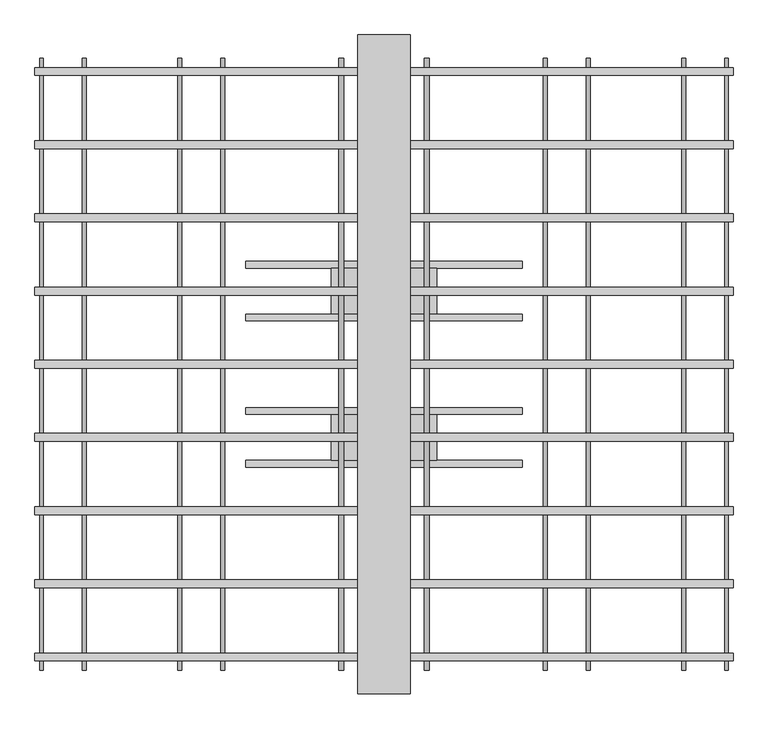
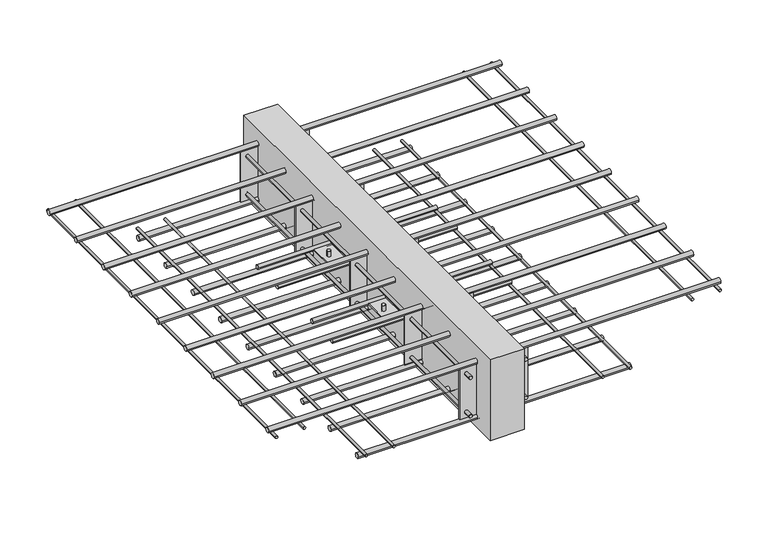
"""IFC4 building model written with IfcOpenShell, lengths in millimetres: fastener geometry, ACINOXplus_Typenreihe_K : KF+ S2."""

from ifc_helpers import new_model, si_unit, point, frame, frame_2d, origin, place, context, project, spatial, polyline, circle_curve, trimmed, segment, composite_curve, outline, extrude, source, transform, mapped, element, save
from ifc_brep_helpers import plane_surface, cylinder_surface, advanced_brep


def fastener_b173686f(model_context):
    return source(origin(), model_context, "Body", "SolidModel", [
        extrude(outline(composite_curve([segment(trimmed(circle_curve(frame_2d((-151.1111111, -104.5)), 5.0), [point((-156.1111111, -104.5))], [point((-146.1111111, -104.5))], False, "CARTESIAN"), True, "CONTINUOUS"), segment(trimmed(circle_curve(frame_2d((-151.1111111, -104.5)), 5.0), [point((-146.1111111, -104.5))], [point((-156.1111111, -104.5))], False, "CARTESIAN"), True, "CONTINUOUS")], self_intersect=False)), frame((-210.0, 0.0, 0.0), z_axis=(1.0, 0.0, 0.0), x_axis=(0.0, 1.0, 0.0)), (0.0, 0.0, 1.0), 420.0),
        extrude(outline(composite_curve([segment(trimmed(circle_curve(frame_2d((-71.1111111, -104.5)), 5.0), [point((-76.1111111, -104.5))], [point((-66.1111111, -104.5))], False, "CARTESIAN"), True, "CONTINUOUS"), segment(trimmed(circle_curve(frame_2d((-71.1111111, -104.5)), 5.0), [point((-66.1111111, -104.5))], [point((-76.1111111, -104.5))], False, "CARTESIAN"), True, "CONTINUOUS")], self_intersect=False)), frame((-210.0, 0.0, 0.0), z_axis=(1.0, 0.0, 0.0), x_axis=(0.0, 1.0, 0.0)), (0.0, 0.0, 1.0), 420.0),
        advanced_brep(
        [(-69.0, -111.1111111, -89.5), (-61.0, -111.1111111, -89.5), (61.0, -111.1111111, -89.5), (69.0, -111.1111111, -89.5), (-69.0, -111.1111111, -119.5), (-61.0, -111.1111111, -119.5), (61.0, -111.1111111, -119.5), (69.0, -111.1111111, -119.5), (-69.0, -111.1111111, -103.0), (-61.0, -111.1111111, -103.0), (-61.0, -111.1111111, -106.0), (-69.0, -111.1111111, -106.0), (61.0, -111.1111111, -103.0), (69.0, -111.1111111, -103.0), (69.0, -111.1111111, -106.0), (61.0, -111.1111111, -106.0), (80.0, -76.1111111, -103.0), (-80.0, -76.1111111, -103.0), (-80.0, -146.1111111, -103.0), (80.0, -146.1111111, -103.0), (80.0, -76.1111111, -106.0), (80.0, -146.1111111, -106.0), (-80.0, -146.1111111, -106.0), (-80.0, -76.1111111, -106.0)],
        [
            (0, 1, circle_curve(frame((-65.0, -111.1111111, -89.5), z_axis=(0.0, 0.0, 1.0), x_axis=(1.0, 0.0, 0.0)), 4.0)),
            (1, 0, circle_curve(frame((-65.0, -111.1111111, -89.5), z_axis=(0.0, 0.0, 1.0), x_axis=(1.0, 0.0, 0.0)), 4.0)),
            (2, 3, circle_curve(frame((65.0, -111.1111111, -89.5), z_axis=(0.0, 0.0, 1.0), x_axis=(1.0, 0.0, 0.0)), 4.0)),
            (3, 2, circle_curve(frame((65.0, -111.1111111, -89.5), z_axis=(0.0, 0.0, 1.0), x_axis=(1.0, 0.0, 0.0)), 4.0)),
            (4, 5, circle_curve(frame((-65.0, -111.1111111, -119.5), z_axis=(0.0, 0.0, -1.0), x_axis=(1.0, 0.0, 0.0)), 4.0)),
            (5, 4, circle_curve(frame((-65.0, -111.1111111, -119.5), z_axis=(0.0, 0.0, -1.0), x_axis=(1.0, 0.0, 0.0)), 4.0)),
            (6, 7, circle_curve(frame((65.0, -111.1111111, -119.5), z_axis=(0.0, 0.0, -1.0), x_axis=(1.0, 0.0, 0.0)), 4.0)),
            (7, 6, circle_curve(frame((65.0, -111.1111111, -119.5), z_axis=(0.0, 0.0, -1.0), x_axis=(1.0, 0.0, 0.0)), 4.0)),
            (0, 8),
            (8, 9, circle_curve(frame((-65.0, -111.1111111, -103.0), z_axis=(0.0, 0.0, 1.0), x_axis=(1.0, 0.0, 0.0)), 4.0)),
            (9, 1),
            (5, 10),
            (10, 11, circle_curve(frame((-65.0, -111.1111111, -106.0), z_axis=(0.0, 0.0, -1.0), x_axis=(1.0, 0.0, 0.0)), 4.0)),
            (11, 4),
            (9, 8, circle_curve(frame((-65.0, -111.1111111, -103.0), z_axis=(0.0, 0.0, 1.0), x_axis=(1.0, 0.0, 0.0)), 4.0)),
            (11, 10, circle_curve(frame((-65.0, -111.1111111, -106.0), z_axis=(0.0, 0.0, -1.0), x_axis=(1.0, 0.0, 0.0)), 4.0)),
            (2, 12),
            (12, 13, circle_curve(frame((65.0, -111.1111111, -103.0), z_axis=(0.0, 0.0, 1.0), x_axis=(1.0, 0.0, 0.0)), 4.0)),
            (13, 3),
            (7, 14),
            (14, 15, circle_curve(frame((65.0, -111.1111111, -106.0), z_axis=(0.0, 0.0, -1.0), x_axis=(1.0, 0.0, 0.0)), 4.0)),
            (15, 6),
            (13, 12, circle_curve(frame((65.0, -111.1111111, -103.0), z_axis=(0.0, 0.0, 1.0), x_axis=(1.0, 0.0, 0.0)), 4.0)),
            (15, 14, circle_curve(frame((65.0, -111.1111111, -106.0), z_axis=(0.0, 0.0, -1.0), x_axis=(1.0, 0.0, 0.0)), 4.0)),
            (16, 17),
            (17, 18),
            (18, 19),
            (19, 16),
            (20, 21),
            (21, 22),
            (22, 23),
            (23, 20),
            (16, 20),
            (23, 17),
            (22, 18),
            (21, 19),
        ],
        [
            plane_surface(frame((-61.0, -111.1111111, -89.5), z_axis=(0.0, 0.0, 1.0), x_axis=(0.0, 1.0, 0.0))),
            plane_surface(frame((-61.0, -111.1111111, -119.5), z_axis=(0.0, 0.0, -1.0), x_axis=(0.0, -1.0, 0.0))),
            cylinder_surface(frame((-65.0, -111.1111111, -119.5), z_axis=(0.0, 0.0, 1.0), x_axis=(1.0, 0.0, 0.0)), 4.0),
            cylinder_surface(frame((65.0, -111.1111111, -104.5), z_axis=(0.0, 0.0, 1.0), x_axis=(1.0, 0.0, 0.0)), 4.0),
            plane_surface(frame((-80.0, -76.1111111, -103.0), z_axis=(0.0, 0.0, 1.0), x_axis=(-1.0, 0.0, 0.0))),
            plane_surface(frame((-80.0, -76.1111111, -106.0), z_axis=(0.0, 0.0, -1.0), x_axis=(1.0, 0.0, 0.0))),
            plane_surface(frame((80.0, -76.1111111, -103.0), z_axis=(0.0, 1.0, 0.0), x_axis=(0.0, 0.0, -1.0))),
            plane_surface(frame((-80.0, -76.1111111, -103.0), z_axis=(-1.0, 0.0, 0.0), x_axis=(0.0, 0.0, -1.0))),
            plane_surface(frame((-80.0, -146.1111111, -103.0), z_axis=(0.0, -1.0, 0.0), x_axis=(0.0, 0.0, -1.0))),
            plane_surface(frame((80.0, -146.1111111, -103.0), z_axis=(1.0, 0.0, 0.0), x_axis=(0.0, 0.0, -1.0))),
        ],
        [
            (0, [[1, 2]]),
            (0, [[3, 4]]),
            (1, [[5, 6]]),
            (1, [[7, 8]]),
            (2, [[-1, 9, 10, 11]]),
            (2, [[-6, 12, 13, 14]]),
            (2, [[-2, -11, 15, -9]]),
            (2, [[-5, -14, 16, -12]]),
            (3, [[-3, 17, 18, 19]]),
            (3, [[-8, 20, 21, 22]]),
            (3, [[-4, -19, 23, -17]]),
            (3, [[-7, -22, 24, -20]]),
            (4, [[25, 26, 27, 28], [-10, -15], [-18, -23]]),
            (5, [[29, 30, 31, 32], [-13, -16], [-21, -24]]),
            (6, [[-25, 33, -32, 34]]),
            (7, [[-26, -34, -31, 35]]),
            (8, [[-27, -35, -30, 36]]),
            (9, [[-28, -36, -29, -33]]),
        ],
    ),
        extrude(outline(composite_curve([segment(trimmed(circle_curve(frame_2d((71.1111111, -104.5)), 5.0), [point((66.1111111, -104.5))], [point((76.1111111, -104.5))], False, "CARTESIAN"), True, "CONTINUOUS"), segment(trimmed(circle_curve(frame_2d((71.1111111, -104.5)), 5.0), [point((76.1111111, -104.5))], [point((66.1111111, -104.5))], False, "CARTESIAN"), True, "CONTINUOUS")], self_intersect=False)), frame((-210.0, 0.0, 0.0), z_axis=(1.0, 0.0, 0.0), x_axis=(0.0, 1.0, 0.0)), (0.0, 0.0, 1.0), 420.0),
        extrude(outline(composite_curve([segment(trimmed(circle_curve(frame_2d((151.1111111, -104.5)), 5.0), [point((146.1111111, -104.5))], [point((156.1111111, -104.5))], False, "CARTESIAN"), True, "CONTINUOUS"), segment(trimmed(circle_curve(frame_2d((151.1111111, -104.5)), 5.0), [point((156.1111111, -104.5))], [point((146.1111111, -104.5))], False, "CARTESIAN"), True, "CONTINUOUS")], self_intersect=False)), frame((-210.0, 0.0, 0.0), z_axis=(1.0, 0.0, 0.0), x_axis=(0.0, 1.0, 0.0)), (0.0, 0.0, 1.0), 420.0),
        advanced_brep(
        [(-69.0, 111.1111111, -89.5), (-61.0, 111.1111111, -89.5), (61.0, 111.1111111, -89.5), (69.0, 111.1111111, -89.5), (-69.0, 111.1111111, -119.5), (-61.0, 111.1111111, -119.5), (61.0, 111.1111111, -119.5), (69.0, 111.1111111, -119.5), (-69.0, 111.1111111, -103.0), (-61.0, 111.1111111, -103.0), (-61.0, 111.1111111, -106.0), (-69.0, 111.1111111, -106.0), (61.0, 111.1111111, -103.0), (69.0, 111.1111111, -103.0), (69.0, 111.1111111, -106.0), (61.0, 111.1111111, -106.0), (80.0, 146.1111111, -103.0), (-80.0, 146.1111111, -103.0), (-80.0, 76.1111111, -103.0), (80.0, 76.1111111, -103.0), (80.0, 146.1111111, -106.0), (80.0, 76.1111111, -106.0), (-80.0, 76.1111111, -106.0), (-80.0, 146.1111111, -106.0)],
        [
            (0, 1, circle_curve(frame((-65.0, 111.1111111, -89.5), z_axis=(0.0, 0.0, 1.0), x_axis=(1.0, 0.0, 0.0)), 4.0)),
            (1, 0, circle_curve(frame((-65.0, 111.1111111, -89.5), z_axis=(0.0, 0.0, 1.0), x_axis=(1.0, 0.0, 0.0)), 4.0)),
            (2, 3, circle_curve(frame((65.0, 111.1111111, -89.5), z_axis=(0.0, 0.0, 1.0), x_axis=(1.0, 0.0, 0.0)), 4.0)),
            (3, 2, circle_curve(frame((65.0, 111.1111111, -89.5), z_axis=(0.0, 0.0, 1.0), x_axis=(1.0, 0.0, 0.0)), 4.0)),
            (4, 5, circle_curve(frame((-65.0, 111.1111111, -119.5), z_axis=(0.0, 0.0, -1.0), x_axis=(1.0, 0.0, 0.0)), 4.0)),
            (5, 4, circle_curve(frame((-65.0, 111.1111111, -119.5), z_axis=(0.0, 0.0, -1.0), x_axis=(1.0, 0.0, 0.0)), 4.0)),
            (6, 7, circle_curve(frame((65.0, 111.1111111, -119.5), z_axis=(0.0, 0.0, -1.0), x_axis=(1.0, 0.0, 0.0)), 4.0)),
            (7, 6, circle_curve(frame((65.0, 111.1111111, -119.5), z_axis=(0.0, 0.0, -1.0), x_axis=(1.0, 0.0, 0.0)), 4.0)),
            (0, 8),
            (8, 9, circle_curve(frame((-65.0, 111.1111111, -103.0), z_axis=(0.0, 0.0, 1.0), x_axis=(1.0, 0.0, 0.0)), 4.0)),
            (9, 1),
            (5, 10),
            (10, 11, circle_curve(frame((-65.0, 111.1111111, -106.0), z_axis=(0.0, 0.0, -1.0), x_axis=(1.0, 0.0, 0.0)), 4.0)),
            (11, 4),
            (9, 8, circle_curve(frame((-65.0, 111.1111111, -103.0), z_axis=(0.0, 0.0, 1.0), x_axis=(1.0, 0.0, 0.0)), 4.0)),
            (11, 10, circle_curve(frame((-65.0, 111.1111111, -106.0), z_axis=(0.0, 0.0, -1.0), x_axis=(1.0, 0.0, 0.0)), 4.0)),
            (2, 12),
            (12, 13, circle_curve(frame((65.0, 111.1111111, -103.0), z_axis=(0.0, 0.0, 1.0), x_axis=(1.0, 0.0, 0.0)), 4.0)),
            (13, 3),
            (7, 14),
            (14, 15, circle_curve(frame((65.0, 111.1111111, -106.0), z_axis=(0.0, 0.0, -1.0), x_axis=(1.0, 0.0, 0.0)), 4.0)),
            (15, 6),
            (13, 12, circle_curve(frame((65.0, 111.1111111, -103.0), z_axis=(0.0, 0.0, 1.0), x_axis=(1.0, 0.0, 0.0)), 4.0)),
            (15, 14, circle_curve(frame((65.0, 111.1111111, -106.0), z_axis=(0.0, 0.0, -1.0), x_axis=(1.0, 0.0, 0.0)), 4.0)),
            (16, 17),
            (17, 18),
            (18, 19),
            (19, 16),
            (20, 21),
            (21, 22),
            (22, 23),
            (23, 20),
            (16, 20),
            (23, 17),
            (22, 18),
            (21, 19),
        ],
        [
            plane_surface(frame((-61.0, 111.1111111, -89.5), z_axis=(0.0, 0.0, 1.0), x_axis=(0.0, 1.0, 0.0))),
            plane_surface(frame((-61.0, 111.1111111, -119.5), z_axis=(0.0, 0.0, -1.0), x_axis=(0.0, -1.0, 0.0))),
            cylinder_surface(frame((-65.0, 111.1111111, -119.5), z_axis=(0.0, 0.0, 1.0), x_axis=(1.0, 0.0, 0.0)), 4.0),
            cylinder_surface(frame((65.0, 111.1111111, -104.5), z_axis=(0.0, 0.0, 1.0), x_axis=(1.0, 0.0, 0.0)), 4.0),
            plane_surface(frame((-80.0, 146.1111111, -103.0), z_axis=(0.0, 0.0, 1.0), x_axis=(-1.0, 0.0, 0.0))),
            plane_surface(frame((-80.0, 146.1111111, -106.0), z_axis=(0.0, 0.0, -1.0), x_axis=(1.0, 0.0, 0.0))),
            plane_surface(frame((80.0, 146.1111111, -103.0), z_axis=(0.0, 1.0, 0.0), x_axis=(0.0, 0.0, -1.0))),
            plane_surface(frame((-80.0, 146.1111111, -103.0), z_axis=(-1.0, 0.0, 0.0), x_axis=(0.0, 0.0, -1.0))),
            plane_surface(frame((-80.0, 76.1111111, -103.0), z_axis=(0.0, -1.0, 0.0), x_axis=(0.0, 0.0, -1.0))),
            plane_surface(frame((80.0, 76.1111111, -103.0), z_axis=(1.0, 0.0, 0.0), x_axis=(0.0, 0.0, -1.0))),
        ],
        [
            (0, [[1, 2]]),
            (0, [[3, 4]]),
            (1, [[5, 6]]),
            (1, [[7, 8]]),
            (2, [[-1, 9, 10, 11]]),
            (2, [[-6, 12, 13, 14]]),
            (2, [[-2, -11, 15, -9]]),
            (2, [[-5, -14, 16, -12]]),
            (3, [[-3, 17, 18, 19]]),
            (3, [[-8, 20, 21, 22]]),
            (3, [[-4, -19, 23, -17]]),
            (3, [[-7, -22, 24, -20]]),
            (4, [[25, 26, 27, 28], [-10, -15], [-18, -23]]),
            (5, [[29, 30, 31, 32], [-13, -16], [-21, -24]]),
            (6, [[-25, 33, -32, 34]]),
            (7, [[-26, -34, -31, 35]]),
            (8, [[-27, -35, -30, 36]]),
            (9, [[-28, -36, -29, -33]]),
        ],
    ),
        extrude(outline(polyline([(40.0, 500.0), (40.0, -500.0), (-40.0, -500.0), (-40.0, 500.0), (40.0, 500.0)])), frame((0.0, 0.0, -200.0), z_axis=(0.0, 0.0, 1.0), x_axis=(1.0, 0.0, 0.0)), (0.0, 0.0, 1.0), 200.0),
        extrude(outline(polyline([(80.0, -220.7222222), (80.0, -223.7222222), (-80.0, -223.7222222), (-80.0, -220.7222222), (80.0, -220.7222222)])), frame((0.0, 0.0, -167.0), z_axis=(0.0, 0.0, 1.0), x_axis=(1.0, 0.0, 0.0)), (0.0, 0.0, 1.0), 125.0),
        extrude(outline(polyline([(80.0, 1.5), (80.0, -1.5), (-80.0, -1.5), (-80.0, 1.5), (80.0, 1.5)])), frame((0.0, 0.0, -167.0), z_axis=(0.0, 0.0, 1.0), x_axis=(1.0, 0.0, 0.0)), (0.0, 0.0, 1.0), 125.0),
        extrude(outline(polyline([(80.0, 223.7222222), (80.0, 220.7222222), (-80.0, 220.7222222), (-80.0, 223.7222222), (80.0, 223.7222222)])), frame((0.0, 0.0, -167.0), z_axis=(0.0, 0.0, 1.0), x_axis=(1.0, 0.0, 0.0)), (0.0, 0.0, 1.0), 125.0),
        extrude(outline(polyline([(80.0, -442.9444444), (80.0, -445.9444444), (-80.0, -445.9444444), (-80.0, -442.9444444), (80.0, -442.9444444)])), frame((0.0, 0.0, -167.0), z_axis=(0.0, 0.0, 1.0), x_axis=(1.0, 0.0, 0.0)), (0.0, 0.0, 1.0), 125.0),
        extrude(outline(polyline([(80.0, 445.9444444), (80.0, 442.9444444), (-80.0, 442.9444444), (-80.0, 445.9444444), (80.0, 445.9444444)])), frame((0.0, 0.0, -167.0), z_axis=(0.0, 0.0, 1.0), x_axis=(1.0, 0.0, 0.0)), (0.0, 0.0, 1.0), 125.0),
        extrude(outline(composite_curve([segment(trimmed(circle_curve(frame_2d((-152.0, -65.0)), 4.0), [point((-152.0, -61.0))], [point((-152.0, -69.0))], False, "CARTESIAN"), True, "CONTINUOUS"), segment(trimmed(circle_curve(frame_2d((-152.0, -65.0)), 4.0), [point((-152.0, -69.0))], [point((-152.0, -61.0))], False, "CARTESIAN"), True, "CONTINUOUS")], self_intersect=False)), frame((0.0, -464.4444444, 0.0), z_axis=(0.0, 1.0, 0.0), x_axis=(0.0, 0.0, 1.0)), (0.0, 0.0, 1.0), 18.5),
        extrude(outline(composite_curve([segment(trimmed(circle_curve(frame_2d((-152.0, -65.0)), 4.0), [point((-152.0, -69.0))], [point((-152.0, -61.0))], False, "CARTESIAN"), True, "CONTINUOUS"), segment(trimmed(circle_curve(frame_2d((-152.0, -65.0)), 4.0), [point((-152.0, -61.0))], [point((-152.0, -69.0))], False, "CARTESIAN"), True, "CONTINUOUS")], self_intersect=False)), frame((0.0, -442.9444444, 0.0), z_axis=(0.0, 1.0, 0.0), x_axis=(0.0, 0.0, 1.0)), (0.0, 0.0, 1.0), 663.6666667),
        extrude(outline(composite_curve([segment(trimmed(circle_curve(frame_2d((-152.0, -65.0)), 4.0), [point((-152.0, -69.0))], [point((-152.0, -61.0))], False, "CARTESIAN"), True, "CONTINUOUS"), segment(trimmed(circle_curve(frame_2d((-152.0, -65.0)), 4.0), [point((-152.0, -61.0))], [point((-152.0, -69.0))], False, "CARTESIAN"), True, "CONTINUOUS")], self_intersect=False)), frame((0.0, 445.9444444, 0.0), z_axis=(0.0, 1.0, 0.0), x_axis=(0.0, 0.0, 1.0)), (0.0, 0.0, 1.0), 18.5),
        extrude(outline(composite_curve([segment(trimmed(circle_curve(frame_2d((-152.0, -65.0)), 4.0), [point((-152.0, -69.0))], [point((-152.0, -61.0))], False, "CARTESIAN"), True, "CONTINUOUS"), segment(trimmed(circle_curve(frame_2d((-152.0, -65.0)), 4.0), [point((-152.0, -61.0))], [point((-152.0, -69.0))], False, "CARTESIAN"), True, "CONTINUOUS")], self_intersect=False)), frame((0.0, 223.7222222, 0.0), z_axis=(0.0, 1.0, 0.0), x_axis=(0.0, 0.0, 1.0)), (0.0, 0.0, 1.0), 219.2222222),
        extrude(outline(composite_curve([segment(trimmed(circle_curve(frame_2d((-152.0, 65.0)), 4.0), [point((-152.0, 69.0))], [point((-152.0, 61.0))], False, "CARTESIAN"), True, "CONTINUOUS"), segment(trimmed(circle_curve(frame_2d((-152.0, 65.0)), 4.0), [point((-152.0, 61.0))], [point((-152.0, 69.0))], False, "CARTESIAN"), True, "CONTINUOUS")], self_intersect=False)), frame((0.0, -464.4444444, 0.0), z_axis=(0.0, 1.0, 0.0), x_axis=(0.0, 0.0, 1.0)), (0.0, 0.0, 1.0), 18.5),
        extrude(outline(composite_curve([segment(trimmed(circle_curve(frame_2d((-152.0, 65.0)), 4.0), [point((-152.0, 61.0))], [point((-152.0, 69.0))], False, "CARTESIAN"), True, "CONTINUOUS"), segment(trimmed(circle_curve(frame_2d((-152.0, 65.0)), 4.0), [point((-152.0, 69.0))], [point((-152.0, 61.0))], False, "CARTESIAN"), True, "CONTINUOUS")], self_intersect=False)), frame((0.0, -442.9444444, 0.0), z_axis=(0.0, 1.0, 0.0), x_axis=(0.0, 0.0, 1.0)), (0.0, 0.0, 1.0), 663.6666667),
        extrude(outline(composite_curve([segment(trimmed(circle_curve(frame_2d((-152.0, 65.0)), 4.0), [point((-152.0, 61.0))], [point((-152.0, 69.0))], False, "CARTESIAN"), True, "CONTINUOUS"), segment(trimmed(circle_curve(frame_2d((-152.0, 65.0)), 4.0), [point((-152.0, 69.0))], [point((-152.0, 61.0))], False, "CARTESIAN"), True, "CONTINUOUS")], self_intersect=False)), frame((0.0, 445.9444444, 0.0), z_axis=(0.0, 1.0, 0.0), x_axis=(0.0, 0.0, 1.0)), (0.0, 0.0, 1.0), 18.5),
        extrude(outline(composite_curve([segment(trimmed(circle_curve(frame_2d((-152.0, 65.0)), 4.0), [point((-152.0, 61.0))], [point((-152.0, 69.0))], False, "CARTESIAN"), True, "CONTINUOUS"), segment(trimmed(circle_curve(frame_2d((-152.0, 65.0)), 4.0), [point((-152.0, 69.0))], [point((-152.0, 61.0))], False, "CARTESIAN"), True, "CONTINUOUS")], self_intersect=False)), frame((0.0, 223.7222222, 0.0), z_axis=(0.0, 1.0, 0.0), x_axis=(0.0, 0.0, 1.0)), (0.0, 0.0, 1.0), 219.2222222),
        extrude(outline(composite_curve([segment(trimmed(circle_curve(frame_2d((-57.0, -65.0)), 4.0), [point((-57.0, -61.0))], [point((-57.0, -69.0))], False, "CARTESIAN"), True, "CONTINUOUS"), segment(trimmed(circle_curve(frame_2d((-57.0, -65.0)), 4.0), [point((-57.0, -69.0))], [point((-57.0, -61.0))], False, "CARTESIAN"), True, "CONTINUOUS")], self_intersect=False)), frame((0.0, -464.4444444, 0.0), z_axis=(0.0, 1.0, 0.0), x_axis=(0.0, 0.0, 1.0)), (0.0, 0.0, 1.0), 18.5),
        extrude(outline(composite_curve([segment(trimmed(circle_curve(frame_2d((-57.0, -65.0)), 4.0), [point((-57.0, -69.0))], [point((-57.0, -61.0))], False, "CARTESIAN"), True, "CONTINUOUS"), segment(trimmed(circle_curve(frame_2d((-57.0, -65.0)), 4.0), [point((-57.0, -61.0))], [point((-57.0, -69.0))], False, "CARTESIAN"), True, "CONTINUOUS")], self_intersect=False)), frame((0.0, -442.9444444, 0.0), z_axis=(0.0, 1.0, 0.0), x_axis=(0.0, 0.0, 1.0)), (0.0, 0.0, 1.0), 663.6666667),
        extrude(outline(composite_curve([segment(trimmed(circle_curve(frame_2d((-57.0, -65.0)), 4.0), [point((-57.0, -69.0))], [point((-57.0, -61.0))], False, "CARTESIAN"), True, "CONTINUOUS"), segment(trimmed(circle_curve(frame_2d((-57.0, -65.0)), 4.0), [point((-57.0, -61.0))], [point((-57.0, -69.0))], False, "CARTESIAN"), True, "CONTINUOUS")], self_intersect=False)), frame((0.0, 445.9444444, 0.0), z_axis=(0.0, 1.0, 0.0), x_axis=(0.0, 0.0, 1.0)), (0.0, 0.0, 1.0), 18.5),
        extrude(outline(composite_curve([segment(trimmed(circle_curve(frame_2d((-57.0, -65.0)), 4.0), [point((-57.0, -69.0))], [point((-57.0, -61.0))], False, "CARTESIAN"), True, "CONTINUOUS"), segment(trimmed(circle_curve(frame_2d((-57.0, -65.0)), 4.0), [point((-57.0, -61.0))], [point((-57.0, -69.0))], False, "CARTESIAN"), True, "CONTINUOUS")], self_intersect=False)), frame((0.0, 223.7222222, 0.0), z_axis=(0.0, 1.0, 0.0), x_axis=(0.0, 0.0, 1.0)), (0.0, 0.0, 1.0), 219.2222222),
        extrude(outline(composite_curve([segment(trimmed(circle_curve(frame_2d((-57.0, 65.0)), 4.0), [point((-57.0, 69.0))], [point((-57.0, 61.0))], False, "CARTESIAN"), True, "CONTINUOUS"), segment(trimmed(circle_curve(frame_2d((-57.0, 65.0)), 4.0), [point((-57.0, 61.0))], [point((-57.0, 69.0))], False, "CARTESIAN"), True, "CONTINUOUS")], self_intersect=False)), frame((0.0, -464.4444444, 0.0), z_axis=(0.0, 1.0, 0.0), x_axis=(0.0, 0.0, 1.0)), (0.0, 0.0, 1.0), 18.5),
        extrude(outline(composite_curve([segment(trimmed(circle_curve(frame_2d((-57.0, 65.0)), 4.0), [point((-57.0, 61.0))], [point((-57.0, 69.0))], False, "CARTESIAN"), True, "CONTINUOUS"), segment(trimmed(circle_curve(frame_2d((-57.0, 65.0)), 4.0), [point((-57.0, 69.0))], [point((-57.0, 61.0))], False, "CARTESIAN"), True, "CONTINUOUS")], self_intersect=False)), frame((0.0, -442.9444444, 0.0), z_axis=(0.0, 1.0, 0.0), x_axis=(0.0, 0.0, 1.0)), (0.0, 0.0, 1.0), 663.6666667),
        extrude(outline(composite_curve([segment(trimmed(circle_curve(frame_2d((-57.0, 65.0)), 4.0), [point((-57.0, 61.0))], [point((-57.0, 69.0))], False, "CARTESIAN"), True, "CONTINUOUS"), segment(trimmed(circle_curve(frame_2d((-57.0, 65.0)), 4.0), [point((-57.0, 69.0))], [point((-57.0, 61.0))], False, "CARTESIAN"), True, "CONTINUOUS")], self_intersect=False)), frame((0.0, 445.9444444, 0.0), z_axis=(0.0, 1.0, 0.0), x_axis=(0.0, 0.0, 1.0)), (0.0, 0.0, 1.0), 18.5),
        extrude(outline(composite_curve([segment(trimmed(circle_curve(frame_2d((-57.0, 65.0)), 4.0), [point((-57.0, 61.0))], [point((-57.0, 69.0))], False, "CARTESIAN"), True, "CONTINUOUS"), segment(trimmed(circle_curve(frame_2d((-57.0, 65.0)), 4.0), [point((-57.0, 69.0))], [point((-57.0, 61.0))], False, "CARTESIAN"), True, "CONTINUOUS")], self_intersect=False)), frame((0.0, 223.7222222, 0.0), z_axis=(0.0, 1.0, 0.0), x_axis=(0.0, 0.0, 1.0)), (0.0, 0.0, 1.0), 219.2222222),
        extrude(outline(composite_curve([segment(trimmed(circle_curve(frame_2d((222.2222222, -173.0)), 6.0), [point((216.2222222, -173.0))], [point((228.2222222, -173.0))], False, "CARTESIAN"), True, "CONTINUOUS"), segment(trimmed(circle_curve(frame_2d((222.2222222, -173.0)), 6.0), [point((228.2222222, -173.0))], [point((216.2222222, -173.0))], False, "CARTESIAN"), True, "CONTINUOUS")], self_intersect=False)), frame((-320.0, 0.0, 0.0), z_axis=(1.0, 0.0, 0.0), x_axis=(0.0, 1.0, 0.0)), (0.0, 0.0, 1.0), 640.0),
        extrude(outline(composite_curve([segment(trimmed(circle_curve(frame_2d((111.1111111, -173.0)), 6.0), [point((105.1111111, -173.0))], [point((117.1111111, -173.0))], False, "CARTESIAN"), True, "CONTINUOUS"), segment(trimmed(circle_curve(frame_2d((111.1111111, -173.0)), 6.0), [point((117.1111111, -173.0))], [point((105.1111111, -173.0))], False, "CARTESIAN"), True, "CONTINUOUS")], self_intersect=False)), frame((-320.0, 0.0, 0.0), z_axis=(1.0, 0.0, 0.0), x_axis=(0.0, 1.0, 0.0)), (0.0, 0.0, 1.0), 640.0),
        extrude(outline(composite_curve([segment(trimmed(circle_curve(frame_2d((0.0, -173.0)), 6.0), [point((-6.0, -173.0))], [point((6.0, -173.0))], False, "CARTESIAN"), True, "CONTINUOUS"), segment(trimmed(circle_curve(frame_2d((0.0, -173.0)), 6.0), [point((6.0, -173.0))], [point((-6.0, -173.0))], False, "CARTESIAN"), True, "CONTINUOUS")], self_intersect=False)), frame((-320.0, 0.0, 0.0), z_axis=(1.0, 0.0, 0.0), x_axis=(0.0, 1.0, 0.0)), (0.0, 0.0, 1.0), 640.0),
        extrude(outline(composite_curve([segment(trimmed(circle_curve(frame_2d((-111.1111111, -173.0)), 6.0), [point((-117.1111111, -173.0))], [point((-105.1111111, -173.0))], False, "CARTESIAN"), True, "CONTINUOUS"), segment(trimmed(circle_curve(frame_2d((-111.1111111, -173.0)), 6.0), [point((-105.1111111, -173.0))], [point((-117.1111111, -173.0))], False, "CARTESIAN"), True, "CONTINUOUS")], self_intersect=False)), frame((-320.0, 0.0, 0.0), z_axis=(1.0, 0.0, 0.0), x_axis=(0.0, 1.0, 0.0)), (0.0, 0.0, 1.0), 640.0),
        extrude(outline(composite_curve([segment(trimmed(circle_curve(frame_2d((-222.2222222, -173.0)), 6.0), [point((-228.2222222, -173.0))], [point((-216.2222222, -173.0))], False, "CARTESIAN"), True, "CONTINUOUS"), segment(trimmed(circle_curve(frame_2d((-222.2222222, -173.0)), 6.0), [point((-216.2222222, -173.0))], [point((-228.2222222, -173.0))], False, "CARTESIAN"), True, "CONTINUOUS")], self_intersect=False)), frame((-320.0, 0.0, 0.0), z_axis=(1.0, 0.0, 0.0), x_axis=(0.0, 1.0, 0.0)), (0.0, 0.0, 1.0), 640.0),
        extrude(outline(composite_curve([segment(trimmed(circle_curve(frame_2d((333.3333333, -173.0)), 6.0), [point((327.3333333, -173.0))], [point((339.3333333, -173.0))], False, "CARTESIAN"), True, "CONTINUOUS"), segment(trimmed(circle_curve(frame_2d((333.3333333, -173.0)), 6.0), [point((339.3333333, -173.0))], [point((327.3333333, -173.0))], False, "CARTESIAN"), True, "CONTINUOUS")], self_intersect=False)), frame((-320.0, 0.0, 0.0), z_axis=(1.0, 0.0, 0.0), x_axis=(0.0, 1.0, 0.0)), (0.0, 0.0, 1.0), 640.0),
        extrude(outline(composite_curve([segment(trimmed(circle_curve(frame_2d((444.4444444, -173.0)), 6.0), [point((438.4444444, -173.0))], [point((450.4444444, -173.0))], False, "CARTESIAN"), True, "CONTINUOUS"), segment(trimmed(circle_curve(frame_2d((444.4444444, -173.0)), 6.0), [point((450.4444444, -173.0))], [point((438.4444444, -173.0))], False, "CARTESIAN"), True, "CONTINUOUS")], self_intersect=False)), frame((-320.0, 0.0, 0.0), z_axis=(1.0, 0.0, 0.0), x_axis=(0.0, 1.0, 0.0)), (0.0, 0.0, 1.0), 640.0),
        extrude(outline(composite_curve([segment(trimmed(circle_curve(frame_2d((-333.3333333, -173.0)), 6.0), [point((-339.3333333, -173.0))], [point((-327.3333333, -173.0))], False, "CARTESIAN"), True, "CONTINUOUS"), segment(trimmed(circle_curve(frame_2d((-333.3333333, -173.0)), 6.0), [point((-327.3333333, -173.0))], [point((-339.3333333, -173.0))], False, "CARTESIAN"), True, "CONTINUOUS")], self_intersect=False)), frame((-320.0, 0.0, 0.0), z_axis=(1.0, 0.0, 0.0), x_axis=(0.0, 1.0, 0.0)), (0.0, 0.0, 1.0), 640.0),
        extrude(outline(composite_curve([segment(trimmed(circle_curve(frame_2d((-444.4444444, -173.0)), 6.0), [point((-450.4444444, -173.0))], [point((-438.4444444, -173.0))], False, "CARTESIAN"), True, "CONTINUOUS"), segment(trimmed(circle_curve(frame_2d((-444.4444444, -173.0)), 6.0), [point((-438.4444444, -173.0))], [point((-450.4444444, -173.0))], False, "CARTESIAN"), True, "CONTINUOUS")], self_intersect=False)), frame((-320.0, 0.0, 0.0), z_axis=(1.0, 0.0, 0.0), x_axis=(0.0, 1.0, 0.0)), (0.0, 0.0, 1.0), 640.0),
        extrude(outline(composite_curve([segment(trimmed(circle_curve(frame_2d((222.2222222, -36.0)), 6.0), [point((216.2222222, -36.0))], [point((228.2222222, -36.0))], False, "CARTESIAN"), True, "CONTINUOUS"), segment(trimmed(circle_curve(frame_2d((222.2222222, -36.0)), 6.0), [point((228.2222222, -36.0))], [point((216.2222222, -36.0))], False, "CARTESIAN"), True, "CONTINUOUS")], self_intersect=False)), frame((-530.0, 0.0, 0.0), z_axis=(1.0, 0.0, 0.0), x_axis=(0.0, 1.0, 0.0)), (0.0, 0.0, 1.0), 1060.0),
        extrude(outline(composite_curve([segment(trimmed(circle_curve(frame_2d((111.1111111, -36.0)), 6.0), [point((105.1111111, -36.0))], [point((117.1111111, -36.0))], False, "CARTESIAN"), True, "CONTINUOUS"), segment(trimmed(circle_curve(frame_2d((111.1111111, -36.0)), 6.0), [point((117.1111111, -36.0))], [point((105.1111111, -36.0))], False, "CARTESIAN"), True, "CONTINUOUS")], self_intersect=False)), frame((-530.0, 0.0, 0.0), z_axis=(1.0, 0.0, 0.0), x_axis=(0.0, 1.0, 0.0)), (0.0, 0.0, 1.0), 1060.0),
        extrude(outline(composite_curve([segment(trimmed(circle_curve(frame_2d((0.0, -36.0)), 6.0), [point((-6.0, -36.0))], [point((6.0, -36.0))], False, "CARTESIAN"), True, "CONTINUOUS"), segment(trimmed(circle_curve(frame_2d((0.0, -36.0)), 6.0), [point((6.0, -36.0))], [point((-6.0, -36.0))], False, "CARTESIAN"), True, "CONTINUOUS")], self_intersect=False)), frame((-530.0, 0.0, 0.0), z_axis=(1.0, 0.0, 0.0), x_axis=(0.0, 1.0, 0.0)), (0.0, 0.0, 1.0), 1060.0),
        extrude(outline(composite_curve([segment(trimmed(circle_curve(frame_2d((-111.1111111, -36.0)), 6.0), [point((-117.1111111, -36.0))], [point((-105.1111111, -36.0))], False, "CARTESIAN"), True, "CONTINUOUS"), segment(trimmed(circle_curve(frame_2d((-111.1111111, -36.0)), 6.0), [point((-105.1111111, -36.0))], [point((-117.1111111, -36.0))], False, "CARTESIAN"), True, "CONTINUOUS")], self_intersect=False)), frame((-530.0, 0.0, 0.0), z_axis=(1.0, 0.0, 0.0), x_axis=(0.0, 1.0, 0.0)), (0.0, 0.0, 1.0), 1060.0),
        extrude(outline(composite_curve([segment(trimmed(circle_curve(frame_2d((-222.2222222, -36.0)), 6.0), [point((-228.2222222, -36.0))], [point((-216.2222222, -36.0))], False, "CARTESIAN"), True, "CONTINUOUS"), segment(trimmed(circle_curve(frame_2d((-222.2222222, -36.0)), 6.0), [point((-216.2222222, -36.0))], [point((-228.2222222, -36.0))], False, "CARTESIAN"), True, "CONTINUOUS")], self_intersect=False)), frame((-530.0, 0.0, 0.0), z_axis=(1.0, 0.0, 0.0), x_axis=(0.0, 1.0, 0.0)), (0.0, 0.0, 1.0), 1060.0),
        extrude(outline(composite_curve([segment(trimmed(circle_curve(frame_2d((333.3333333, -36.0)), 6.0), [point((327.3333333, -36.0))], [point((339.3333333, -36.0))], False, "CARTESIAN"), True, "CONTINUOUS"), segment(trimmed(circle_curve(frame_2d((333.3333333, -36.0)), 6.0), [point((339.3333333, -36.0))], [point((327.3333333, -36.0))], False, "CARTESIAN"), True, "CONTINUOUS")], self_intersect=False)), frame((-530.0, 0.0, 0.0), z_axis=(1.0, 0.0, 0.0), x_axis=(0.0, 1.0, 0.0)), (0.0, 0.0, 1.0), 1060.0),
        extrude(outline(composite_curve([segment(trimmed(circle_curve(frame_2d((444.4444444, -36.0)), 6.0), [point((438.4444444, -36.0))], [point((450.4444444, -36.0))], False, "CARTESIAN"), True, "CONTINUOUS"), segment(trimmed(circle_curve(frame_2d((444.4444444, -36.0)), 6.0), [point((450.4444444, -36.0))], [point((438.4444444, -36.0))], False, "CARTESIAN"), True, "CONTINUOUS")], self_intersect=False)), frame((-530.0, 0.0, 0.0), z_axis=(1.0, 0.0, 0.0), x_axis=(0.0, 1.0, 0.0)), (0.0, 0.0, 1.0), 1060.0),
        extrude(outline(composite_curve([segment(trimmed(circle_curve(frame_2d((-333.3333333, -36.0)), 6.0), [point((-339.3333333, -36.0))], [point((-327.3333333, -36.0))], False, "CARTESIAN"), True, "CONTINUOUS"), segment(trimmed(circle_curve(frame_2d((-333.3333333, -36.0)), 6.0), [point((-327.3333333, -36.0))], [point((-339.3333333, -36.0))], False, "CARTESIAN"), True, "CONTINUOUS")], self_intersect=False)), frame((-530.0, 0.0, 0.0), z_axis=(1.0, 0.0, 0.0), x_axis=(0.0, 1.0, 0.0)), (0.0, 0.0, 1.0), 1060.0),
        extrude(outline(composite_curve([segment(trimmed(circle_curve(frame_2d((-444.4444444, -36.0)), 6.0), [point((-450.4444444, -36.0))], [point((-438.4444444, -36.0))], False, "CARTESIAN"), True, "CONTINUOUS"), segment(trimmed(circle_curve(frame_2d((-444.4444444, -36.0)), 6.0), [point((-438.4444444, -36.0))], [point((-450.4444444, -36.0))], False, "CARTESIAN"), True, "CONTINUOUS")], self_intersect=False)), frame((-530.0, 0.0, 0.0), z_axis=(1.0, 0.0, 0.0), x_axis=(0.0, 1.0, 0.0)), (0.0, 0.0, 1.0), 1060.0),
        extrude(outline(composite_curve([segment(trimmed(circle_curve(frame_2d((-164.0, -310.0)), 3.0), [point((-164.0, -307.0))], [point((-164.0, -313.0))], False, "CARTESIAN"), True, "CONTINUOUS"), segment(trimmed(circle_curve(frame_2d((-164.0, -310.0)), 3.0), [point((-164.0, -313.0))], [point((-164.0, -307.0))], False, "CARTESIAN"), True, "CONTINUOUS")], self_intersect=False)), frame((0.0, -464.4444444, 0.0), z_axis=(0.0, 1.0, 0.0), x_axis=(0.0, 0.0, 1.0)), (0.0, 0.0, 1.0), 928.8888889),
        extrude(outline(composite_curve([segment(trimmed(circle_curve(frame_2d((-164.0, -245.0)), 3.0), [point((-164.0, -242.0))], [point((-164.0, -248.0))], False, "CARTESIAN"), True, "CONTINUOUS"), segment(trimmed(circle_curve(frame_2d((-164.0, -245.0)), 3.0), [point((-164.0, -248.0))], [point((-164.0, -242.0))], False, "CARTESIAN"), True, "CONTINUOUS")], self_intersect=False)), frame((0.0, -464.4444444, 0.0), z_axis=(0.0, 1.0, 0.0), x_axis=(0.0, 0.0, 1.0)), (0.0, 0.0, 1.0), 928.8888889),
        extrude(outline(composite_curve([segment(trimmed(circle_curve(frame_2d((-164.0, 245.0)), 3.0), [point((-164.0, 248.0))], [point((-164.0, 242.0))], False, "CARTESIAN"), True, "CONTINUOUS"), segment(trimmed(circle_curve(frame_2d((-164.0, 245.0)), 3.0), [point((-164.0, 242.0))], [point((-164.0, 248.0))], False, "CARTESIAN"), True, "CONTINUOUS")], self_intersect=False)), frame((0.0, -464.4444444, 0.0), z_axis=(0.0, 1.0, 0.0), x_axis=(0.0, 0.0, 1.0)), (0.0, 0.0, 1.0), 928.8888889),
        extrude(outline(composite_curve([segment(trimmed(circle_curve(frame_2d((-164.0, 310.0)), 3.0), [point((-164.0, 313.0))], [point((-164.0, 307.0))], False, "CARTESIAN"), True, "CONTINUOUS"), segment(trimmed(circle_curve(frame_2d((-164.0, 310.0)), 3.0), [point((-164.0, 307.0))], [point((-164.0, 313.0))], False, "CARTESIAN"), True, "CONTINUOUS")], self_intersect=False)), frame((0.0, -464.4444444, 0.0), z_axis=(0.0, 1.0, 0.0), x_axis=(0.0, 0.0, 1.0)), (0.0, 0.0, 1.0), 928.8888889),
        extrude(outline(composite_curve([segment(trimmed(circle_curve(frame_2d((-45.0, 455.0)), 3.0), [point((-45.0, 458.0))], [point((-45.0, 452.0))], False, "CARTESIAN"), True, "CONTINUOUS"), segment(trimmed(circle_curve(frame_2d((-45.0, 455.0)), 3.0), [point((-45.0, 452.0))], [point((-45.0, 458.0))], False, "CARTESIAN"), True, "CONTINUOUS")], self_intersect=False)), frame((0.0, -464.4444444, 0.0), z_axis=(0.0, 1.0, 0.0), x_axis=(0.0, 0.0, 1.0)), (0.0, 0.0, 1.0), 928.8888889),
        extrude(outline(composite_curve([segment(trimmed(circle_curve(frame_2d((-45.0, 520.0)), 3.0), [point((-45.0, 523.0))], [point((-45.0, 517.0))], False, "CARTESIAN"), True, "CONTINUOUS"), segment(trimmed(circle_curve(frame_2d((-45.0, 520.0)), 3.0), [point((-45.0, 517.0))], [point((-45.0, 523.0))], False, "CARTESIAN"), True, "CONTINUOUS")], self_intersect=False)), frame((0.0, -464.4444444, 0.0), z_axis=(0.0, 1.0, 0.0), x_axis=(0.0, 0.0, 1.0)), (0.0, 0.0, 1.0), 928.8888889),
        extrude(outline(composite_curve([segment(trimmed(circle_curve(frame_2d((-45.0, -520.0)), 3.0), [point((-45.0, -517.0))], [point((-45.0, -523.0))], False, "CARTESIAN"), True, "CONTINUOUS"), segment(trimmed(circle_curve(frame_2d((-45.0, -520.0)), 3.0), [point((-45.0, -523.0))], [point((-45.0, -517.0))], False, "CARTESIAN"), True, "CONTINUOUS")], self_intersect=False)), frame((0.0, -464.4444444, 0.0), z_axis=(0.0, 1.0, 0.0), x_axis=(0.0, 0.0, 1.0)), (0.0, 0.0, 1.0), 928.8888889),
        extrude(outline(composite_curve([segment(trimmed(circle_curve(frame_2d((-45.0, -455.0)), 3.0), [point((-45.0, -452.0))], [point((-45.0, -458.0))], False, "CARTESIAN"), True, "CONTINUOUS"), segment(trimmed(circle_curve(frame_2d((-45.0, -455.0)), 3.0), [point((-45.0, -458.0))], [point((-45.0, -452.0))], False, "CARTESIAN"), True, "CONTINUOUS")], self_intersect=False)), frame((0.0, -464.4444444, 0.0), z_axis=(0.0, 1.0, 0.0), x_axis=(0.0, 0.0, 1.0)), (0.0, 0.0, 1.0), 928.8888889),
    ])


if __name__ == "__main__":
    model = new_model("IFC4")
    model_context = context("Model", 3, world=origin())
    ifc_project = project(units=[si_unit("LENGTHUNIT", "METRE", prefix="MILLI")], contexts=[model_context])
    site = spatial("IfcSite", under=ifc_project)
    building = spatial("IfcBuilding", under=site)
    placement = place(None, origin())
    fastener_shape = fastener_b173686f(model_context)
    element("IfcFastener", 1, ObjectType="ACINOXplus_Typenreihe_K : KF+ S2", at=placement, inside=building, context=model_context, shape_type="MappedRepresentation", body=[
        mapped(fastener_shape, transform((0.0, 0.0, 0.0), x_axis=(1.0, 0.0, 0.0), y_axis=(0.0, 1.0, 0.0), z_axis=(0.0, 0.0, 1.0))),
    ])
    save(model, "model.ifc")
